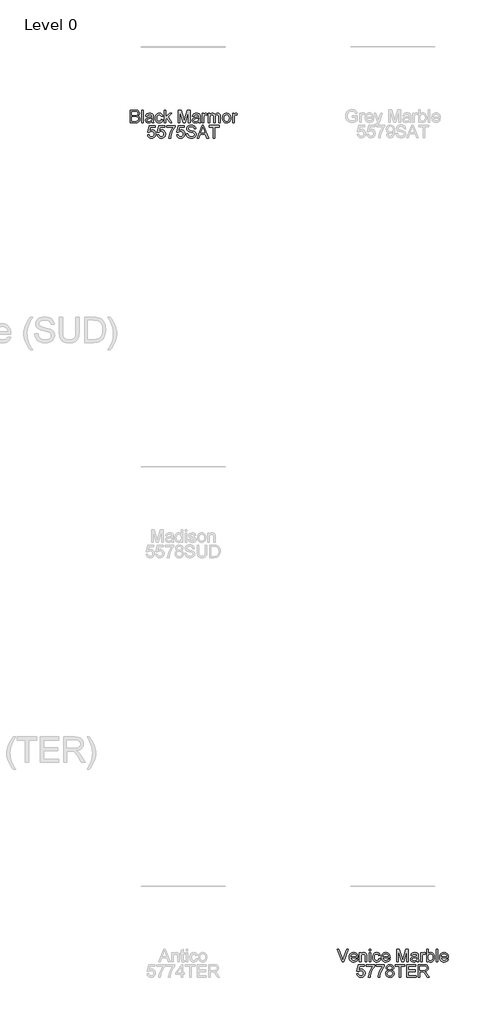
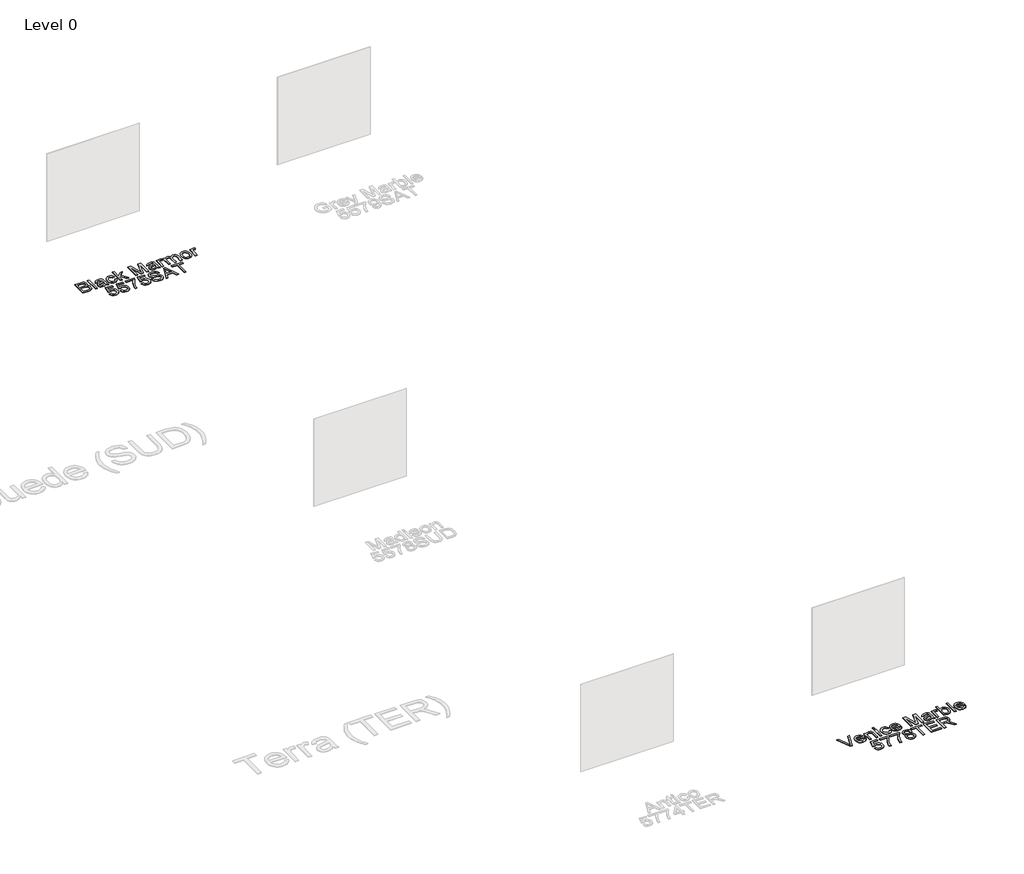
# One storey, part 5 of 9: 2 proxies.
"""IFC4 building model written with IfcOpenShell, lengths in millimetres."""

from ifc_helpers import new_model, si_unit, origin, origin_with_axes, place, context, project, spatial, polyline, outline, extrude, element, save

model = new_model("IFC4")

# Units and contexts
model_context = context("Model", 3, world=origin())
ifc_project = project(units=[si_unit("LENGTHUNIT", "METRE", prefix="MILLI")], contexts=[model_context])

# Site, building, storey
site = spatial("IfcSite", under=ifc_project)
building = spatial("IfcBuilding", under=site)
storey = spatial("IfcBuildingStorey", under=building, Name="Level 0", Elevation=0.0)

# Proxies
placement = place(None, origin())
element("IfcBuildingElementProxy", 1, Name="300mm Arial", ObjectType="300mm Arial", at=placement, inside=storey, context=model_context, shape_type="SweptSolid", body=[
    extrude(outline(polyline([(-5707.931563, -7002.860494), (-5707.931563, -6701.4915635), (-5592.9316513, -6701.4915635), (-5561.3029968, -6703.7080526), (-5536.6089179, -6710.3575196), (-5517.6813892, -6721.6055116), (-5503.3523855, -6737.6175755), (-5494.3300796, -6756.4531336), (-5491.3226443, -6776.1716086), (-5493.851833, -6794.317388), (-5501.4393991, -6811.3779155), (-5514.140525, -6826.3047274), (-5532.0103929, -6838.0493601), (-5510.6640402, -6849.1961846), (-5494.8910996, -6866.1555446), (-5485.1514238, -6887.8054), (-5481.9048652, -6913.0237108), (-5484.1213542, -6934.0389697), (-5490.7708213, -6953.5275184), (-5500.6944381, -6970.1006023), (-5512.7333764, -6982.3694669), (-5527.4762473, -6991.253817), (-5545.5116622, -6997.6733578), (-5593.8145681, -7002.860494), (-5707.931563, -7002.860494)]), holes=[polyline([(-5670.2604467, -6823.9226915), (-5601.4665136, -6823.9226915), (-5561.2937997, -6820.68533), (-5547.2315105, -6815.1027207), (-5537.1239527, -6806.7426024), (-5531.0263086, -6795.7337336), (-5528.9937606, -6782.2048733), (-5530.8883528, -6769.071486), (-5536.5721297, -6757.630356), (-5545.7875736, -6748.7000206), (-5558.2771674, -6743.0990172), (-5606.690438, -6739.1626798), (-5670.2604467, -6739.1626798), (-5670.2604467, -6823.9226915)]), polyline([(-5670.2604467, -6965.1893777), (-5593.0052277, -6965.1893777), (-5565.0461961, -6963.7178497), (-5541.3913838, -6955.5140812), (-5525.7196108, -6938.7754504), (-5521.1118888, -6926.9480443), (-5519.5759815, -6913.3915928), (-5521.3786033, -6897.6462434), (-5526.7864686, -6884.1081859), (-5536.2318388, -6873.5223815), (-5550.1469753, -6866.6337912), (-5569.8562532, -6862.8538037), (-5596.6840477, -6861.5938078), (-5670.2604467, -6861.5938078), (-5670.2604467, -6965.1893777)])]), origin_with_axes(), (0.0, 0.0, 1.0), 10.0),
    extrude(outline(polyline([(-5434.8159698, -7002.860494), (-5434.8159698, -6701.4915635), (-5397.1448535, -6701.4915635), (-5397.1448535, -7002.860494), (-5434.8159698, -7002.860494)])), origin_with_axes(), (0.0, 0.0, 1.0), 10.0),
    extrude(outline(polyline([(-5199.3714929, -6974.6071568), (-5217.3701195, -6990.0398064), (-5235.902175, -7000.1381672), (-5255.3907237, -7005.7115794), (-5276.2588299, -7007.5693835), (-5307.7403316, -7003.0996173), (-5330.9628826, -6989.6903186), (-5345.2826892, -6969.3280501), (-5350.0559581, -6943.9993748), (-5348.2533363, -6928.3827841), (-5342.845471, -6914.2009331), (-5334.5037468, -6902.0608273), (-5323.8995483, -6892.5694718), (-5297.5224092, -6880.2086368), (-5264.9280644, -6874.5432541), (-5226.4108195, -6868.5835657), (-5199.5922221, -6861.5938078), (-5199.3714929, -6853.2060983), (-5201.965061, -6836.3938912), (-5209.7457652, -6825.3942195), (-5227.1465835, -6817.2272392), (-5251.390007, -6814.5049125), (-5273.8308087, -6816.3167313), (-5289.5025817, -6821.7521878), (-5300.1895537, -6831.8045633), (-5307.6759523, -6847.4671392), (-5345.3470686, -6842.7582497), (-5338.8079661, -6822.156858), (-5329.0498962, -6805.9700502), (-5315.1623509, -6793.590821), (-5296.2348222, -6784.4121652), (-5273.0858477, -6778.7283884), (-5246.5339647, -6776.8337961), (-5221.0673336, -6778.5076592), (-5200.8798091, -6783.5292485), (-5185.6586915, -6791.0800264), (-5175.0912812, -6800.3414556), (-5168.0831292, -6811.7917827), (-5163.5397866, -6825.9092543), (-5161.7003766, -6858.8714811), (-5161.7003766, -6905.7396473), (-5159.7873902, -6971.1858542), (-5152.2825975, -7002.860494), (-5189.9537138, -7002.860494), (-5199.3714929, -6974.6071568)]), holes=[polyline([(-5199.3714929, -6899.2649241), (-5260.1455985, -6910.8164188), (-5292.5560023, -6916.9232599), (-5307.2344939, -6926.8560738), (-5312.3848418, -6941.3506244), (-5309.5797416, -6952.5526311), (-5301.164441, -6961.7312869), (-5287.3228809, -6967.8565221), (-5268.2390024, -6969.8982672), (-5248.0054927, -6967.64499), (-5230.1264277, -6960.8851583), (-5215.6318771, -6950.9247533), (-5205.5519104, -6939.069756), (-5201.0821442, -6926.8560738), (-5199.5922221, -6909.933502), (-5199.3714929, -6899.2649241)])]), origin_with_axes(), (0.0, 0.0, 1.0), 10.0),
    extrude(outline(polyline([(-4968.6359055, -6922.8093718), (-4930.9647892, -6927.5182614), (-4941.4678202, -6961.0231141), (-4961.2046892, -6986.3425924), (-4988.3175923, -7002.2626857), (-5020.9487252, -7007.5693835), (-5042.0766481, -7005.7184772), (-5061.0202716, -7000.1657584), (-5077.7795957, -6990.9112269), (-5092.3546205, -6977.9548829), (-5104.1521362, -6961.5404481), (-5112.5789332, -6941.9116444), (-5117.6350114, -6919.0684718), (-5119.3203707, -6893.0109302), (-5116.4416941, -6859.4876834), (-5107.8056643, -6830.4342028), (-5093.2743255, -6806.9725286), (-5072.709722, -6790.2247008), (-5048.1076135, -6780.1815223), (-5021.46376, -6776.8337961), (-4989.6327704, -6781.4323211), (-4964.1845334, -6795.2278959), (-4945.9283894, -6817.4847566), (-4935.6736787, -6847.4671392), (-4973.3447951, -6852.1760288), (-4980.1782031, -6835.7409006), (-4990.8191898, -6823.9594797), (-5004.679144, -6816.8685543), (-5021.1694544, -6814.5049125), (-5045.5140455, -6819.1586197), (-5064.8370473, -6833.1197414), (-5077.4462026, -6857.1424357), (-5081.6492544, -6891.9808606), (-5077.5381731, -6927.2883351), (-5065.2049293, -6951.3938029), (-5046.2314153, -6965.2721511), (-5022.199524, -6969.8982672), (-5002.6925812, -6967.0103936), (-4986.6989115, -6958.3467726), (-4975.0646434, -6943.6866751), (-4968.6359055, -6922.8093718)])), origin_with_axes(), (0.0, 0.0, 1.0), 10.0),
    extrude(outline(polyline([(-4898.0025624, -7002.860494), (-4898.0025624, -6701.4915635), (-4860.3314461, -6701.4915635), (-4860.3314461, -6863.4332178), (-4775.86574, -6781.5426857), (-4723.7736495, -6781.5426857), (-4809.3430016, -6864.4632874), (-4719.06476, -7002.860494), (-4763.0634466, -7002.860494), (-4836.3455401, -6890.6564855), (-4860.3314461, -6913.9802039), (-4860.3314461, -7002.860494), (-4898.0025624, -7002.860494)])), origin_with_axes(), (0.0, 0.0, 1.0), 10.0),
    extrude(outline(polyline([(-4563.6714052, -7002.860494), (-4563.6714052, -6701.4915635), (-4499.0713269, -6701.4915635), (-4437.2671517, -6913.9066275), (-4424.7591638, -6958.2731962), (-4411.2946828, -6910.2278076), (-4350.66773, -6701.4915635), (-4285.8469225, -6701.4915635), (-4285.8469225, -7002.860494), (-4323.5180388, -7002.860494), (-4323.5180388, -6739.1626798), (-4399.2281534, -7002.860494), (-4450.2165979, -7002.860494), (-4526.0002889, -6739.1626798), (-4526.0002889, -7002.860494), (-4563.6714052, -7002.860494)])), origin_with_axes(), (0.0, 0.0, 1.0), 10.0),
    extrude(outline(polyline([(-4083.3646723, -6974.6071568), (-4101.3632989, -6990.0398064), (-4119.8953544, -7000.1381672), (-4139.3839031, -7005.7115794), (-4160.2520093, -7007.5693835), (-4191.7335111, -7003.0996173), (-4214.956062, -6989.6903186), (-4229.2758687, -6969.3280501), (-4234.0491375, -6943.9993748), (-4232.2465158, -6928.3827841), (-4226.8386504, -6914.2009331), (-4218.4969262, -6902.0608273), (-4207.8927277, -6892.5694718), (-4181.5155886, -6880.2086368), (-4148.9212439, -6874.5432541), (-4110.403999, -6868.5835657), (-4083.5854015, -6861.5938078), (-4083.3646723, -6853.2060983), (-4085.9582404, -6836.3938912), (-4093.7389446, -6825.3942195), (-4111.139763, -6817.2272392), (-4135.3831864, -6814.5049125), (-4157.8239881, -6816.3167313), (-4173.4957611, -6821.7521878), (-4184.1827331, -6831.8045633), (-4191.6691317, -6847.4671392), (-4229.340248, -6842.7582497), (-4222.8011455, -6822.156858), (-4213.0430756, -6805.9700502), (-4199.1555303, -6793.590821), (-4180.2280017, -6784.4121652), (-4157.0790271, -6778.7283884), (-4130.5271441, -6776.8337961), (-4105.060513, -6778.5076592), (-4084.8729885, -6783.5292485), (-4069.651871, -6791.0800264), (-4059.0844606, -6800.3414556), (-4052.0763086, -6811.7917827), (-4047.532966, -6825.9092543), (-4045.693556, -6858.8714811), (-4045.693556, -6905.7396473), (-4043.7805696, -6971.1858542), (-4036.2757769, -7002.860494), (-4073.9468932, -7002.860494), (-4083.3646723, -6974.6071568)]), holes=[polyline([(-4083.3646723, -6899.2649241), (-4144.1387779, -6910.8164188), (-4176.5491817, -6916.9232599), (-4191.2276733, -6926.8560738), (-4196.3780212, -6941.3506244), (-4193.572921, -6952.5526311), (-4185.1576204, -6961.7312869), (-4171.3160603, -6967.8565221), (-4152.2321818, -6969.8982672), (-4131.9986721, -6967.64499), (-4114.1196071, -6960.8851583), (-4099.6250565, -6950.9247533), (-4089.5450898, -6939.069756), (-4085.0753236, -6926.8560738), (-4083.5854015, -6909.933502), (-4083.3646723, -6899.2649241)])]), origin_with_axes(), (0.0, 0.0, 1.0), 10.0),
    extrude(outline(polyline([(-3993.8957711, -7002.860494), (-3993.8957711, -6781.5426857), (-3960.9335443, -6781.5426857), (-3960.9335443, -6814.2841833), (-3948.7566503, -6795.3014723), (-3937.5362494, -6784.1178596), (-3926.2790604, -6778.654812), (-3913.9918017, -6776.8337961), (-3895.22982, -6779.7400639), (-3876.1735326, -6788.4588672), (-3888.7550969, -6822.2304343), (-3901.9988487, -6816.4362929), (-3915.2426005, -6814.5049125), (-3926.4905925, -6816.3627165), (-3936.542968, -6821.9361288), (-3944.6639631, -6830.8020848), (-3950.1178137, -6842.5375205), (-3954.6979445, -6863.5803706), (-3956.2246548, -6886.5362071), (-3956.2246548, -7002.860494), (-3993.8957711, -7002.860494)])), origin_with_axes(), (0.0, 0.0, 1.0), 10.0),
    extrude(outline(polyline([(-3852.6290849, -7002.860494), (-3852.6290849, -6781.5426857), (-3814.9579686, -6781.5426857), (-3814.9579686, -6817.9630032), (-3803.6272032, -6801.2335695), (-3789.0590762, -6788.1277734), (-3771.7502283, -6779.6572905), (-3752.1973003, -6776.8337961), (-3731.2464206, -6779.7124728), (-3714.4526076, -6788.3485026), (-3701.9078315, -6802.1716686), (-3693.704063, -6820.6117536), (-3679.9728676, -6801.4588972), (-3664.3102916, -6787.7782855), (-3646.7163352, -6779.5699185), (-3627.1909983, -6776.8337961), (-3598.8732817, -6781.3863358), (-3577.9315991, -6795.0439549), (-3564.99135, -6818.1745354), (-3560.6779336, -6851.1459592), (-3560.6779336, -7002.860494), (-3598.3490499, -7002.860494), (-3598.3490499, -6867.332767), (-3601.8439288, -6835.8788564), (-3606.7551535, -6827.2060383), (-3614.4990695, -6820.3910244), (-3624.4594745, -6815.9764404), (-3636.0201662, -6814.5049125), (-3656.4284199, -6818.2757029), (-3673.0658831, -6829.5880743), (-3684.1299341, -6849.2145787), (-3687.8179511, -6877.9277684), (-3687.8179511, -7002.860494), (-3725.4890674, -7002.860494), (-3725.4890674, -6863.1389122), (-3727.6687682, -6841.8385447), (-3734.2078707, -6826.6450183), (-3745.7133801, -6817.5399389), (-3762.7923017, -6814.5049125), (-3777.3052464, -6816.5282634), (-3790.677757, -6822.5983163), (-3801.7142168, -6832.5679184), (-3809.2190095, -6846.2899168), (-3813.5232289, -6865.3278101), (-3814.9579686, -6891.2450966), (-3814.9579686, -7002.860494), (-3852.6290849, -7002.860494)])), origin_with_axes(), (0.0, 0.0, 1.0), 10.0),
    extrude(outline(polyline([(-3513.5890382, -6892.2015898), (-3511.5518916, -6863.5389839), (-3505.440452, -6838.8403064), (-3495.2547193, -6818.1055575), (-3480.9946934, -6801.334737), (-3466.6380986, -6790.6155754), (-3450.7915816, -6782.9590314), (-3433.4551426, -6778.3651049), (-3414.6287815, -6776.8337961), (-3393.845748, -6778.698498), (-3375.0538759, -6784.2926036), (-3358.253165, -6793.6161129), (-3343.4436154, -6806.669026), (-3331.3563926, -6823.0098843), (-3322.722662, -6842.1972296), (-3317.5424237, -6864.2310619), (-3315.8156776, -6889.1113811), (-3318.8690981, -6927.1687735), (-3328.0293598, -6956.1394806), (-3343.0297482, -6977.8353213), (-3363.6035488, -6994.0681143), (-3388.0401103, -7004.1940662), (-3414.6287815, -7007.5693835), (-3435.7153176, -7005.7115794), (-3454.6819337, -7000.1381672), (-3471.5286298, -6990.8491468), (-3486.255406, -6977.8445183), (-3498.2138701, -6961.3450108), (-3506.7556301, -6941.5713536), (-3511.8806862, -6918.5235466), (-3513.5890382, -6892.2015898)]), holes=[polyline([(-3475.9179219, -6892.1280134), (-3471.5585202, -6926.2214773), (-3458.4803153, -6950.5108861), (-3438.7986286, -6965.0514219), (-3414.6287815, -6969.8982672), (-3390.569299, -6965.0238308), (-3370.9244005, -6950.4005215), (-3357.8461955, -6925.789216), (-3353.4867939, -6890.950791), (-3357.8737867, -6857.8506085), (-3371.0347651, -6833.8922936), (-3390.7072548, -6819.3517577), (-3414.6287815, -6814.5049125), (-3438.7986286, -6819.3333636), (-3458.4803153, -6833.8187172), (-3471.5585202, -6858.0529436), (-3475.9179219, -6892.1280134)])]), origin_with_axes(), (0.0, 0.0, 1.0), 10.0),
    extrude(outline(polyline([(-3273.4356717, -7002.860494), (-3273.4356717, -6781.5426857), (-3240.473445, -6781.5426857), (-3240.473445, -6814.2841833), (-3228.2965509, -6795.3014723), (-3217.0761501, -6784.1178596), (-3205.818961, -6778.654812), (-3193.5317024, -6776.8337961), (-3174.7697206, -6779.7400639), (-3155.7134333, -6788.4588672), (-3168.2949975, -6822.2304343), (-3181.5387493, -6816.4362929), (-3194.7825012, -6814.5049125), (-3206.0304932, -6816.3627165), (-3216.0828687, -6821.9361288), (-3224.2038637, -6830.8020848), (-3229.6577143, -6842.5375205), (-3234.2378452, -6863.5803706), (-3235.7645554, -6886.5362071), (-3235.7645554, -7002.860494), (-3273.4356717, -7002.860494)])), origin_with_axes(), (0.0, 0.0, 1.0), 10.0),
    extrude(outline(polyline([(-5298.2581732, -7288.7338254), (-5260.5870569, -7284.0249358), (-5253.6708754, -7306.6404815), (-5241.6043459, -7322.8364863), (-5224.4426509, -7332.5761621), (-5202.2409725, -7335.8227207), (-5175.238434, -7331.3069693), (-5155.0049243, -7317.7597148), (-5142.3681777, -7296.7444558), (-5138.1559289, -7269.8246908), (-5142.1014633, -7244.4776213), (-5153.9380665, -7225.0902402), (-5173.757709, -7212.7845875), (-5201.6523613, -7208.6827032), (-5219.9268994, -7210.3197781), (-5234.7249526, -7215.2310027), (-5255.8781674, -7232.2271509), (-5293.5492837, -7227.5182614), (-5260.5870569, -7072.1249066), (-5114.6114812, -7072.1249066), (-5114.6114812, -7109.7960229), (-5230.1264277, -7109.7960229), (-5246.3132355, -7192.790201), (-5219.4026675, -7176.4562404), (-5191.2045126, -7171.0115869), (-5172.8563981, -7172.6992456), (-5155.9982057, -7177.7622215), (-5140.6299353, -7186.2005148), (-5126.751587, -7198.0141254), (-5115.2598732, -7212.4810848), (-5107.0515062, -7228.8794248), (-5102.126486, -7247.2091452), (-5100.4848126, -7267.470246), (-5106.3893186, -7305.1413624), (-5113.7699511, -7321.9351754), (-5124.1028367, -7337.3678251), (-5139.7562156, -7353.1729553), (-5158.0215566, -7364.4623341), (-5178.8988599, -7371.2359613), (-5202.3881253, -7373.4938371), (-5239.3878569, -7367.6904986), (-5255.0665277, -7360.4363255), (-5268.8644018, -7350.2804832), (-5280.3446193, -7337.7288093), (-5289.0703204, -7323.2871418), (-5298.2581732, -7288.7338254)])), origin_with_axes(), (0.0, 0.0, 1.0), 10.0),
    extrude(outline(polyline([(-5067.5225858, -7288.7338254), (-5029.8514695, -7284.0249358), (-5022.935288, -7306.6404815), (-5010.8687586, -7322.8364863), (-4993.7070635, -7332.5761621), (-4971.5053851, -7335.8227207), (-4944.5028466, -7331.3069693), (-4924.2693369, -7317.7597148), (-4911.6325904, -7296.7444558), (-4907.4203415, -7269.8246908), (-4911.3658759, -7244.4776213), (-4923.2024791, -7225.0902402), (-4943.0221216, -7212.7845875), (-4970.9167739, -7208.6827032), (-4989.191312, -7210.3197781), (-5003.9893653, -7215.2310027), (-5025.14258, -7232.2271509), (-5062.8136963, -7227.5182614), (-5029.8514695, -7072.1249066), (-4883.8758938, -7072.1249066), (-4883.8758938, -7109.7960229), (-4999.3908403, -7109.7960229), (-5015.5776481, -7192.790201), (-4988.6670802, -7176.4562404), (-4960.4689252, -7171.0115869), (-4942.1208107, -7172.6992456), (-4925.2626183, -7177.7622215), (-4909.8943479, -7186.2005148), (-4896.0159997, -7198.0141254), (-4884.5242858, -7212.4810848), (-4876.3159188, -7228.8794248), (-4871.3908986, -7247.2091452), (-4869.7492252, -7267.470246), (-4875.6537312, -7305.1413624), (-4883.0343638, -7321.9351754), (-4893.3672493, -7337.3678251), (-4909.0206282, -7353.1729553), (-4927.2859693, -7364.4623341), (-4948.1632725, -7371.2359613), (-4971.6525379, -7373.4938371), (-5008.6522695, -7367.6904986), (-5024.3309403, -7360.4363255), (-5038.1288144, -7350.2804832), (-5049.6090319, -7337.7288093), (-5058.334733, -7323.2871418), (-5067.5225858, -7288.7338254)])), origin_with_axes(), (0.0, 0.0, 1.0), 10.0),
    extrude(outline(polyline([(-4836.7869984, -7109.7960229), (-4836.7869984, -7072.1249066), (-4639.0136378, -7072.1249066), (-4639.0136378, -7102.5855358), (-4667.2025957, -7138.2608923), (-4695.1156421, -7183.6299393), (-4719.7361446, -7234.5540045), (-4738.0474709, -7286.8944154), (-4747.0237916, -7326.0554538), (-4752.0269868, -7368.7849475), (-4789.6981031, -7368.7849475), (-4785.62381, -7329.9550029), (-4774.7253059, -7283.8042066), (-4757.2968963, -7234.8850983), (-4733.632887, -7187.7502177), (-4706.0049492, -7145.1402856), (-4676.6847541, -7109.7960229), (-4836.7869984, -7109.7960229)])), origin_with_axes(), (0.0, 0.0, 1.0), 10.0),
    extrude(outline(polyline([(-4606.0514111, -7288.7338254), (-4568.3802948, -7284.0249358), (-4561.4641133, -7306.6404815), (-4549.3975838, -7322.8364863), (-4532.2358887, -7332.5761621), (-4510.0342103, -7335.8227207), (-4483.0316719, -7331.3069693), (-4462.7981621, -7317.7597148), (-4450.1614156, -7296.7444558), (-4445.9491668, -7269.8246908), (-4449.8947012, -7244.4776213), (-4461.7313044, -7225.0902402), (-4481.5509469, -7212.7845875), (-4509.4455991, -7208.6827032), (-4527.7201372, -7210.3197781), (-4542.5181905, -7215.2310027), (-4563.6714052, -7232.2271509), (-4601.3425215, -7227.5182614), (-4568.3802948, -7072.1249066), (-4422.4047191, -7072.1249066), (-4422.4047191, -7109.7960229), (-4537.9196656, -7109.7960229), (-4554.1064734, -7192.790201), (-4527.1959054, -7176.4562404), (-4498.9977505, -7171.0115869), (-4480.649636, -7172.6992456), (-4463.7914435, -7177.7622215), (-4448.4231732, -7186.2005148), (-4434.5448249, -7198.0141254), (-4423.0531111, -7212.4810848), (-4414.8447441, -7228.8794248), (-4409.9197239, -7247.2091452), (-4408.2780505, -7267.470246), (-4414.1825565, -7305.1413624), (-4421.563189, -7321.9351754), (-4431.8960746, -7337.3678251), (-4447.5494534, -7353.1729553), (-4465.8147945, -7364.4623341), (-4486.6920977, -7371.2359613), (-4510.1813631, -7373.4938371), (-4547.1810948, -7367.6904986), (-4562.8597656, -7360.4363255), (-4576.6576397, -7350.2804832), (-4588.1378572, -7337.7288093), (-4596.8635582, -7323.2871418), (-4606.0514111, -7288.7338254)])), origin_with_axes(), (0.0, 0.0, 1.0), 10.0),
    extrude(outline(polyline([(-4375.3158237, -7265.1893777), (-4337.6447074, -7265.1893777), (-4333.3220939, -7286.0942721), (-4325.5046015, -7302.8972822), (-4313.3093134, -7316.2330045), (-4295.8533127, -7326.7360355), (-4274.516157, -7333.5510494), (-4250.6774037, -7335.8227207), (-4229.6897359, -7334.1028724), (-4211.3140302, -7328.9433274), (-4196.4240065, -7320.7763471), (-4185.8933844, -7310.0341929), (-4179.6301934, -7297.700949), (-4177.5424631, -7284.7606998), (-4179.1059616, -7272.1515444), (-4183.796457, -7261.2530403), (-4193.3246007, -7251.9548229), (-4209.4010439, -7244.1465276), (-4264.2522494, -7229.7623415), (-4300.2586996, -7220.2433949), (-4323.2973096, -7211.1843008), (-4342.0500943, -7198.510766), (-4355.3398314, -7183.1516928), (-4363.2584913, -7165.4381747), (-4365.8980446, -7145.7013056), (-4362.6330919, -7123.637583), (-4352.8382338, -7103.0637824), (-4336.7709877, -7085.6261758), (-4314.6888709, -7072.9710352), (-4288.1829731, -7065.2731044), (-4258.844384, -7062.7071275), (-4227.0593796, -7065.3926661), (-4199.2475008, -7073.4492818), (-4176.4020289, -7086.7114277), (-4159.5162453, -7105.013557), (-4148.8292734, -7127.2152354), (-4144.5802363, -7152.1760288), (-4182.2513526, -7152.1760288), (-4189.1675341, -7129.6984389), (-4203.5885083, -7113.4748429), (-4226.1212806, -7103.6523936), (-4257.372856, -7100.3782438), (-4289.3601955, -7103.6156054), (-4311.3043565, -7113.3276901), (-4323.9962854, -7127.6199056), (-4328.2269283, -7144.5976597), (-4325.2286901, -7159.0738162), (-4316.2339753, -7170.7172813), (-4294.9703959, -7181.1283418), (-4254.7241057, -7191.7601314), (-4213.1902284, -7201.8584922), (-4188.0638882, -7210.669266), (-4166.5887767, -7224.3360821), (-4151.6067824, -7241.2034716), (-4142.8052057, -7261.0874934), (-4139.8713468, -7283.8042066), (-4143.2466641, -7307.0267576), (-4153.372616, -7328.869751), (-4169.8353353, -7347.668521), (-4192.2209547, -7361.7584014), (-4219.1407197, -7370.5599781), (-4249.2058757, -7373.4938371), (-4286.1136369, -7370.3300519), (-4316.4914927, -7360.8386964), (-4340.6889309, -7344.9829824), (-4359.0554395, -7322.7261217), (-4370.8460575, -7295.6132187), (-4375.3158237, -7265.1893777)])), origin_with_axes(), (0.0, 0.0, 1.0), 10.0),
    extrude(outline(polyline([(-4118.3870383, -7368.7849475), (-3998.0896258, -7067.4160171), (-3966.0103159, -7067.4160171), (-3845.7864798, -7368.7849475), (-3885.5913117, -7368.7849475), (-3920.0250665, -7274.6071568), (-4044.222028, -7274.6071568), (-4078.6557828, -7368.7849475), (-4118.3870383, -7368.7849475)]), holes=[polyline([(-4030.389665, -7236.9360404), (-3933.7838531, -7236.9360404), (-3961.0071207, -7162.8446066), (-3982.1235473, -7105.0871334), (-4000.885529, -7156.3698835), (-4030.389665, -7236.9360404)])]), origin_with_axes(), (0.0, 0.0, 1.0), 10.0),
    extrude(outline(polyline([(-3730.197957, -7368.7849475), (-3730.197957, -7105.0871334), (-3829.0846373, -7105.0871334), (-3829.0846373, -7067.4160171), (-3593.6401603, -7067.4160171), (-3593.6401603, -7105.0871334), (-3692.5268406, -7105.0871334), (-3692.5268406, -7368.7849475), (-3730.197957, -7368.7849475)])), origin_with_axes(), (0.0, 0.0, 1.0), 10.0),
])
element("IfcBuildingElementProxy", 2, Name="300mm Arial", ObjectType="300mm Arial", at=placement, inside=storey, context=model_context, shape_type="SweptSolid", body=[
    extrude(outline(polyline([(-661.3577024, -27014.0303751), (-781.2136565, -26712.6614447), (-740.8937898, -26712.6614447), (-660.6219384, -26929.7853982), (-644.3615543, -26978.7137036), (-628.3218993, -26929.7853982), (-547.8293187, -26712.6614447), (-507.5830285, -26712.6614447), (-622.5093637, -27014.0303751), (-661.3577024, -27014.0303751)])), origin_with_axes(), (0.0, 0.0, 1.0), 10.0),
    extrude(outline(polyline([(-322.2440793, -26948.1059216), (-285.308727, -26952.8148111), (-298.6168581, -26980.6450841), (-319.8528463, -27001.4488109), (-348.5384449, -27014.4166512), (-384.1954073, -27018.7392647), (-407.5697095, -27016.8745628), (-428.396429, -27011.2804572), (-446.6755656, -27001.9569479), (-462.4071194, -26988.9040349), (-475.0576616, -26972.4850016), (-484.0937631, -26953.0631315), (-489.515424, -26930.6384246), (-491.3226443, -26905.2108809), (-489.4970299, -26878.9211139), (-484.0201867, -26855.7491467), (-474.8921147, -26835.6949794), (-462.1128138, -26818.7586121), (-446.4226468, -26805.3033281), (-428.5619759, -26795.692411), (-408.5308012, -26789.9258607), (-386.3291228, -26788.0036773), (-364.8425151, -26789.9212622), (-345.4114479, -26795.6740169), (-328.0359214, -26805.2619414), (-312.7159356, -26818.6850357), (-300.210247, -26835.5846148), (-291.2776123, -26855.6019939), (-285.9180315, -26878.7371729), (-284.1315046, -26904.9901518), (-284.3522338, -26915.1436948), (-453.651528, -26915.1436948), (-447.1308196, -26943.3418497), (-431.9832784, -26964.0720002), (-410.1218909, -26976.8191113), (-383.4596433, -26981.0681484), (-363.4100745, -26979.0999797), (-346.524291, -26973.1954737), (-332.8022925, -26962.9867483), (-322.2440793, -26948.1059216)]), holes=[polyline([(-453.651528, -26877.4725785), (-321.8026209, -26877.4725785), (-326.8977865, -26857.5701626), (-336.8857827, -26843.3331294), (-358.8483378, -26830.0893775), (-386.4762756, -26825.6747936), (-411.8693304, -26829.1972637), (-432.8661952, -26839.764674), (-447.4619134, -26856.2365903), (-453.651528, -26877.4725785)])]), origin_with_axes(), (0.0, 0.0, 1.0), 10.0),
    extrude(outline(polyline([(-246.4603883, -27014.0303751), (-246.4603883, -26792.7125668), (-208.789272, -26792.7125668), (-208.789272, -26823.6146544), (-195.70187, -26808.0348519), (-179.9841117, -26796.9064216), (-161.6359972, -26790.2293634), (-140.6575265, -26788.0036773), (-122.0886828, -26789.797102), (-105.0833375, -26795.1773762), (-90.9014866, -26803.4731152), (-80.8031258, -26814.0129343), (-69.5091486, -26841.7144486), (-67.5225858, -26878.1347661), (-67.5225858, -27014.0303751), (-105.1937021, -27014.0303751), (-105.1937021, -26883.2115376), (-109.5347097, -26849.8814289), (-115.5403832, -26839.9578121), (-124.8753889, -26832.2598813), (-136.8407508, -26827.3210655), (-150.7374931, -26825.6747936), (-172.8012158, -26829.3720076), (-191.6091828, -26840.4636498), (-199.1254718, -26849.5181454), (-204.4942497, -26861.892776), (-208.789272, -26896.6024423), (-208.789272, -27014.0303751), (-246.4603883, -27014.0303751)])), origin_with_axes(), (0.0, 0.0, 1.0), 10.0),
    extrude(outline(polyline([(-15.7248009, -26750.332561), (-15.7248009, -26712.6614447), (21.9463154, -26712.6614447), (21.9463154, -26750.332561), (-15.7248009, -26750.332561)])), origin_with_axes(), (0.0, 0.0, 1.0), 10.0),
    extrude(outline(polyline([(-15.7248009, -27014.0303751), (-15.7248009, -26792.7125668), (21.9463154, -26792.7125668), (21.9463154, -27014.0303751), (-15.7248009, -27014.0303751)])), origin_with_axes(), (0.0, 0.0, 1.0), 10.0),
    extrude(outline(polyline([(219.719676, -26933.979253), (257.3907923, -26938.6881425), (246.8877614, -26972.1929952), (227.1508923, -26997.5124735), (200.0379893, -27013.4325669), (167.4068563, -27018.7392647), (146.2789335, -27016.8883584), (127.33531, -27011.3356395), (110.5759858, -27002.0811081), (96.000961, -26989.124764), (84.2034453, -26972.7103293), (75.7766484, -26953.0815256), (70.7205702, -26930.2383529), (69.0352108, -26904.1808114), (71.9138874, -26870.6575646), (80.5499172, -26841.604084), (95.081256, -26818.1424097), (115.6458596, -26801.3945819), (140.247968, -26791.3514034), (166.8918215, -26788.0036773), (198.7228111, -26792.6022022), (224.1710482, -26806.397777), (242.4271922, -26828.6546378), (252.6819028, -26858.6370204), (215.0107865, -26863.3459099), (208.1773784, -26846.9107818), (197.5363917, -26835.1293609), (183.6764375, -26828.0384354), (167.1861271, -26825.6747936), (142.8415361, -26830.3285008), (123.5185343, -26844.2896225), (110.9093789, -26868.3123168), (106.7063271, -26903.1507418), (110.8174084, -26938.4582163), (123.1506523, -26962.563684), (142.1241662, -26976.4420323), (166.1560575, -26981.0681484), (185.6630003, -26978.1802747), (201.6566701, -26969.5166537), (213.2909381, -26954.8565562), (219.719676, -26933.979253)])), origin_with_axes(), (0.0, 0.0, 1.0), 10.0),
    extrude(outline(polyline([(445.3049155, -26948.1059216), (482.2402678, -26952.8148111), (468.9321366, -26980.6450841), (447.6961484, -27001.4488109), (419.0105499, -27014.4166512), (383.3535875, -27018.7392647), (359.9792852, -27016.8745628), (339.1525657, -27011.2804572), (320.8734291, -27001.9569479), (305.1418753, -26988.9040349), (292.4913332, -26972.4850016), (283.4552317, -26953.0631315), (278.0335708, -26930.6384246), (276.2263505, -26905.2108809), (278.0519649, -26878.9211139), (283.5288081, -26855.7491467), (292.6568801, -26835.6949794), (305.4361809, -26818.7586121), (321.126348, -26805.3033281), (338.9870189, -26795.692411), (359.0181935, -26789.9258607), (381.2198719, -26788.0036773), (402.7064797, -26789.9212622), (422.1375468, -26795.6740169), (439.5130733, -26805.2619414), (454.8330591, -26818.6850357), (467.3387477, -26835.5846148), (476.2713824, -26855.6019939), (481.6309632, -26878.7371729), (483.4174902, -26904.9901518), (483.196761, -26915.1436948), (313.8974668, -26915.1436948), (320.4181751, -26943.3418497), (335.5657163, -26964.0720002), (357.4271039, -26976.8191113), (384.0893515, -26981.0681484), (404.1389202, -26979.0999797), (421.0247038, -26973.1954737), (434.7467022, -26962.9867483), (445.3049155, -26948.1059216)]), holes=[polyline([(313.8974668, -26877.4725785), (445.7463739, -26877.4725785), (440.6512082, -26857.5701626), (430.663212, -26843.3331294), (408.7006569, -26830.0893775), (381.0727191, -26825.6747936), (355.6796644, -26829.1972637), (334.6827995, -26839.764674), (320.0870813, -26856.2365903), (313.8974668, -26877.4725785)])]), origin_with_axes(), (0.0, 0.0, 1.0), 10.0),
    extrude(outline(polyline([(643.5197345, -27014.0303751), (643.5197345, -26712.6614447), (708.1198128, -26712.6614447), (769.923988, -26925.0765087), (782.4319758, -26969.4430773), (795.8964569, -26921.3976887), (856.5234097, -26712.6614447), (921.3442172, -26712.6614447), (921.3442172, -27014.0303751), (883.6731009, -27014.0303751), (883.6731009, -26750.332561), (807.9629863, -27014.0303751), (756.9745418, -27014.0303751), (681.1908508, -26750.332561), (681.1908508, -27014.0303751), (643.5197345, -27014.0303751)])), origin_with_axes(), (0.0, 0.0, 1.0), 10.0),
    extrude(outline(polyline([(1123.8264674, -26985.7770379), (1105.8278407, -27001.2096876), (1087.2957852, -27011.3080484), (1067.8072365, -27016.8814606), (1046.9391304, -27018.7392647), (1015.4576286, -27014.2694984), (992.2350777, -27000.8601997), (977.915271, -26980.4979313), (973.1420021, -26955.1692559), (974.9446239, -26939.5526652), (980.3524892, -26925.3708143), (988.6942135, -26913.2307084), (999.298412, -26903.739353), (1025.675551, -26891.3785179), (1058.2698958, -26885.7131352), (1096.7871407, -26879.7534469), (1123.6057382, -26872.763689), (1123.8264674, -26864.3759795), (1121.2328993, -26847.5637723), (1113.4521951, -26836.5641006), (1096.0513767, -26828.3971204), (1071.8079532, -26825.6747936), (1049.3671515, -26827.4866124), (1033.6953785, -26832.9220689), (1023.0084066, -26842.9744444), (1015.522008, -26858.6370204), (977.8508917, -26853.9281308), (984.3899941, -26833.3267391), (994.1480641, -26817.1399313), (1008.0356094, -26804.7607022), (1026.963138, -26795.5820464), (1050.1121126, -26789.8982696), (1076.6639956, -26788.0036773), (1102.1306267, -26789.6775404), (1122.3181512, -26794.6991296), (1137.5392687, -26802.2499075), (1148.106679, -26811.5113368), (1155.1148311, -26822.9616639), (1159.6581737, -26837.0791354), (1161.4975837, -26870.0413622), (1161.4975837, -26916.9095284), (1163.41057, -26982.3557353), (1170.9153627, -27014.0303751), (1133.2442464, -27014.0303751), (1123.8264674, -26985.7770379)]), holes=[polyline([(1123.8264674, -26910.4348053), (1063.0523618, -26921.9862999), (1030.641958, -26928.093141), (1015.9634664, -26938.0259549), (1010.8131184, -26952.5205055), (1013.6182187, -26963.7225123), (1022.0335193, -26972.9011681), (1035.8750794, -26979.0264033), (1054.9589579, -26981.0681484), (1075.1924676, -26978.8148711), (1093.0715326, -26972.0550395), (1107.5660832, -26962.0946345), (1117.6460498, -26950.2396372), (1122.1158161, -26938.0259549), (1123.6057382, -26921.1033831), (1123.8264674, -26910.4348053)])]), origin_with_axes(), (0.0, 0.0, 1.0), 10.0),
    extrude(outline(polyline([(1213.2953686, -27014.0303751), (1213.2953686, -26792.7125668), (1246.2575954, -26792.7125668), (1246.2575954, -26825.4540644), (1258.4344894, -26806.4713534), (1269.6548902, -26795.2877408), (1280.9120793, -26789.8246932), (1293.1993379, -26788.0036773), (1311.9613197, -26790.909945), (1331.017607, -26799.6287483), (1318.4360428, -26833.4003155), (1305.192291, -26827.6061741), (1291.9485392, -26825.6747936), (1280.7005472, -26827.5325977), (1270.6481716, -26833.1060099), (1262.5271766, -26841.971966), (1257.073326, -26853.7074016), (1252.4931952, -26874.7502517), (1250.9664849, -26897.7060882), (1250.9664849, -27014.0303751), (1213.2953686, -27014.0303751)])), origin_with_axes(), (0.0, 0.0, 1.0), 10.0),
    extrude(outline(polyline([(1392.233171, -27014.0303751), (1354.5620547, -27014.0303751), (1354.5620547, -26712.6614447), (1392.233171, -26712.6614447), (1392.233171, -26824.4239948), (1404.6215972, -26808.4901059), (1418.6103101, -26797.1087567), (1434.1993096, -26790.2799471), (1451.3885959, -26788.0036773), (1470.7943711, -26790.0546194), (1489.1332886, -26796.2074458), (1505.3568846, -26806.0758803), (1518.4166954, -26819.2736469), (1528.6530119, -26835.6719868), (1536.406125, -26855.1421414), (1541.2897584, -26876.8747703), (1542.9176363, -26900.060533), (1541.2322769, -26926.8147511), (1536.1761987, -26950.3500018), (1527.7494018, -26970.6662849), (1515.951886, -26987.7636007), (1501.7907285, -27001.3154537), (1486.2730061, -27010.9953487), (1469.3987188, -27016.8032857), (1451.1678667, -27018.7392647), (1433.4129619, -27016.2422656), (1417.672211, -27008.7512685), (1403.9456141, -26996.2662733), (1392.233171, -26978.78728), (1392.233171, -27014.0303751)]), holes=[polyline([(1392.233171, -26901.8263666), (1394.808345, -26933.243489), (1402.5338669, -26954.5070683), (1411.6619389, -26966.1275408), (1422.2707359, -26974.4278783), (1434.360258, -26979.4080808), (1447.9305051, -26981.0681484), (1469.672331, -26976.1753178), (1488.2503718, -26961.4968262), (1500.9974829, -26937.124644), (1505.24652, -26903.1507418), (1501.1722269, -26868.6801988), (1488.9493476, -26844.5839281), (1470.950721, -26830.4020772), (1449.5491859, -26825.6747936), (1427.80736, -26830.5676241), (1409.2293192, -26845.2461157), (1396.4822081, -26869.1768395), (1392.233171, -26901.8263666)])]), origin_with_axes(), (0.0, 0.0, 1.0), 10.0),
    extrude(outline(polyline([(1585.2976421, -27014.0303751), (1585.2976421, -26712.6614447), (1622.9687584, -26712.6614447), (1622.9687584, -27014.0303751), (1585.2976421, -27014.0303751)])), origin_with_axes(), (0.0, 0.0, 1.0), 10.0),
    extrude(outline(polyline([(1834.4273292, -26948.1059216), (1871.3626816, -26952.8148111), (1858.0545504, -26980.6450841), (1836.8185622, -27001.4488109), (1808.1329636, -27014.4166512), (1772.4760013, -27018.7392647), (1749.101699, -27016.8745628), (1728.2749795, -27011.2804572), (1709.9958429, -27001.9569479), (1694.2642891, -26988.9040349), (1681.613747, -26972.4850016), (1672.5776455, -26953.0631315), (1667.1559846, -26930.6384246), (1665.3487643, -26905.2108809), (1667.1743787, -26878.9211139), (1672.6512219, -26855.7491467), (1681.7792939, -26835.6949794), (1694.5585947, -26818.7586121), (1710.2487618, -26805.3033281), (1728.1094326, -26795.692411), (1748.1406073, -26789.9258607), (1770.3422857, -26788.0036773), (1791.8288935, -26789.9212622), (1811.2599606, -26795.6740169), (1828.6354871, -26805.2619414), (1843.9554729, -26818.6850357), (1856.4611615, -26835.5846148), (1865.3937962, -26855.6019939), (1870.753377, -26878.7371729), (1872.5399039, -26904.9901518), (1872.3191747, -26915.1436948), (1703.0198806, -26915.1436948), (1709.5405889, -26943.3418497), (1724.6881301, -26964.0720002), (1746.5495176, -26976.8191113), (1773.2117652, -26981.0681484), (1793.261334, -26979.0999797), (1810.1471176, -26973.1954737), (1823.869116, -26962.9867483), (1834.4273292, -26948.1059216)]), holes=[polyline([(1703.0198806, -26877.4725785), (1834.8687876, -26877.4725785), (1829.773622, -26857.5701626), (1819.7856258, -26843.3331294), (1797.8230707, -26830.0893775), (1770.1951329, -26825.6747936), (1744.8020782, -26829.1972637), (1723.8052133, -26839.764674), (1709.2094951, -26856.2365903), (1703.0198806, -26877.4725785)])]), origin_with_axes(), (0.0, 0.0, 1.0), 10.0),
    extrude(outline(polyline([(-310.030397, -27299.9037065), (-272.3592807, -27295.194817), (-265.4430992, -27317.8103626), (-253.3765698, -27334.0063675), (-236.2148747, -27343.7460433), (-214.0131963, -27346.9926019), (-187.0106579, -27342.4768504), (-166.7771481, -27328.9295959), (-154.1404016, -27307.914337), (-149.9281527, -27280.994572), (-153.8736871, -27255.6475025), (-165.7102903, -27236.2601213), (-185.5299328, -27223.9544686), (-213.4245851, -27219.8525844), (-231.6991232, -27221.4896592), (-246.4971765, -27226.4008839), (-267.6503912, -27243.397032), (-305.3215075, -27238.6881425), (-272.3592807, -27083.2947877), (-126.383705, -27083.2947877), (-126.383705, -27120.9659041), (-241.8986515, -27120.9659041), (-258.0854593, -27203.9600822), (-231.1748914, -27187.6261216), (-202.9767364, -27182.181468), (-184.6286219, -27183.8691267), (-167.7704295, -27188.9321027), (-152.4021592, -27197.3703959), (-138.5238109, -27209.1840065), (-127.0320971, -27223.650966), (-118.82373, -27240.0493059), (-113.8987098, -27258.3790263), (-112.2570364, -27278.6401272), (-118.1615425, -27316.3112435), (-125.542175, -27333.1050566), (-135.8750605, -27348.5377063), (-151.5284394, -27364.3428365), (-169.7937805, -27375.6322152), (-190.6710837, -27382.4058424), (-214.1603491, -27384.6637182), (-251.1600808, -27378.8603797), (-266.8387515, -27371.6062066), (-280.6366256, -27361.4503643), (-292.1168431, -27348.8986905), (-300.8425442, -27334.4570229), (-310.030397, -27299.9037065)])), origin_with_axes(), (0.0, 0.0, 1.0), 10.0),
    extrude(outline(polyline([(-79.2948097, -27120.9659041), (-79.2948097, -27083.2947877), (118.4785509, -27083.2947877), (118.4785509, -27113.7554169), (90.2895931, -27149.4307734), (62.3765467, -27194.7998205), (37.7560441, -27245.7238857), (19.4447178, -27298.0642965), (10.4683972, -27337.2253349), (5.465202, -27379.9548287), (-32.2059143, -27379.9548287), (-28.1316212, -27341.1248841), (-17.2331171, -27294.9740878), (0.1952924, -27246.0549795), (23.8593018, -27198.9200988), (51.4872396, -27156.3101667), (80.8074346, -27120.9659041), (-79.2948097, -27120.9659041)])), origin_with_axes(), (0.0, 0.0, 1.0), 10.0),
    extrude(outline(polyline([(151.4407777, -27120.9659041), (151.4407777, -27083.2947877), (349.2141383, -27083.2947877), (349.2141383, -27113.7554169), (321.0251804, -27149.4307734), (293.1121341, -27194.7998205), (268.4916315, -27245.7238857), (250.1803052, -27298.0642965), (241.2039845, -27337.2253349), (236.2007894, -27379.9548287), (198.5296731, -27379.9548287), (202.6039662, -27341.1248841), (213.5024703, -27294.9740878), (230.9308798, -27246.0549795), (254.5948892, -27198.9200988), (282.222827, -27156.3101667), (311.543022, -27120.9659041), (151.4407777, -27120.9659041)])), origin_with_axes(), (0.0, 0.0, 1.0), 10.0),
    extrude(outline(polyline([(437.0643588, -27213.9664724), (416.8952284, -27204.0336586), (402.7409686, -27190.5691775), (394.3808503, -27173.8489409), (391.5941442, -27154.14886), (393.1116574, -27138.7851882), (397.6641971, -27124.6999063), (405.2517632, -27111.8930143), (415.8743558, -27100.3645123), (429.0215386, -27090.8363686), (444.1828754, -27084.0305517), (480.5480106, -27078.5858982), (517.133875, -27084.1593104), (532.4607586, -27091.1260757), (545.8102765, -27100.8795471), (556.6260072, -27112.6333769), (564.3515291, -27125.6012172), (568.9868422, -27139.7830681), (570.5319466, -27155.1789296), (567.7820287, -27174.244414), (559.532275, -27190.6795421), (545.6907149, -27204.0612497), (526.165378, -27213.9664724), (549.3511407, -27225.9134402), (566.2277273, -27243.5073966), (576.5192261, -27265.9022131), (579.9497257, -27292.251761), (578.2482715, -27311.0413339), (573.1439088, -27328.2674083), (564.6366376, -27343.9299843), (552.726458, -27358.0290617), (538.0387694, -27369.6817239), (521.1989711, -27378.0050541), (502.2070631, -27382.9990522), (481.0630454, -27384.6637182), (459.9190277, -27382.9921544), (440.9271197, -27377.9774629), (424.0873214, -27369.6196439), (409.3996327, -27357.9186971), (397.4894531, -27343.7207514), (388.982182, -27327.8719352), (383.8778193, -27310.3722485), (382.1763651, -27291.2216914), (385.7448204, -27263.851271), (396.4501865, -27241.3368929), (413.7406403, -27224.4511093), (437.0643588, -27213.9664724)]), holes=[polyline([(429.2652605, -27155.252506), (432.6037896, -27171.6968312), (442.6193769, -27184.8302184), (459.0177168, -27193.4386571), (481.5045038, -27196.3081367), (503.4670589, -27193.4570512), (519.6170785, -27184.9037948), (529.5498924, -27172.211866), (532.8608303, -27156.9447632), (529.4395278, -27141.0982462), (519.1756201, -27127.9924502), (502.8048713, -27119.1908734), (481.0630454, -27116.2570145), (459.1832637, -27119.1264941), (442.8401061, -27127.7349328), (432.6589719, -27140.3532852), (429.2652605, -27155.252506)]), polyline([(419.8474814, -27289.8973162), (426.1382635, -27318.2610181), (434.8478697, -27330.4287151), (448.3951242, -27339.4878092), (464.6187202, -27345.1164037), (481.357351, -27346.9926019), (506.998726, -27343.0470675), (526.2389544, -27331.2104643), (538.2686956, -27313.2854141), (542.2786094, -27291.0745386), (538.1399369, -27268.4865841), (525.7239196, -27250.1660608), (506.0422329, -27238.0259549), (480.1065522, -27233.979253), (454.8238621, -27237.9707726), (435.7767718, -27249.9453316), (423.829804, -27267.916367), (419.8474814, -27289.8973162)])]), origin_with_axes(), (0.0, 0.0, 1.0), 10.0),
    extrude(outline(polyline([(702.3808537, -27379.9548287), (702.3808537, -27116.2570145), (603.4941734, -27116.2570145), (603.4941734, -27078.5858982), (838.9386503, -27078.5858982), (838.9386503, -27116.2570145), (740.05197, -27116.2570145), (740.05197, -27379.9548287), (702.3808537, -27379.9548287)])), origin_with_axes(), (0.0, 0.0, 1.0), 10.0),
    extrude(outline(polyline([(881.3186561, -27379.9548287), (881.3186561, -27078.5858982), (1097.9275749, -27078.5858982), (1097.9275749, -27116.2570145), (918.9897724, -27116.2570145), (918.9897724, -27205.7259157), (1088.5097958, -27205.7259157), (1088.5097958, -27243.397032), (918.9897724, -27243.397032), (918.9897724, -27342.2837124), (1102.6364644, -27342.2837124), (1102.6364644, -27379.9548287), (881.3186561, -27379.9548287)])), origin_with_axes(), (0.0, 0.0, 1.0), 10.0),
    extrude(outline(polyline([(1159.1431389, -27379.9548287), (1159.1431389, -27078.5858982), (1289.0054832, -27078.5858982), (1323.9082875, -27080.6184462), (1349.3013422, -27086.7160903), (1367.8609889, -27097.9732794), (1382.263569, -27115.4844623), (1391.5066041, -27137.1986971), (1394.5876158, -27161.0650415), (1389.4832531, -27190.7531185), (1374.1701651, -27215.364424), (1362.5703859, -27225.3938069), (1348.1884992, -27233.4090359), (1311.0784029, -27243.397032), (1332.489135, -27259.5102634), (1363.0233406, -27298.2850257), (1413.2760212, -27379.9548287), (1369.4980637, -27379.9548287), (1330.2818431, -27317.4884659), (1301.9549294, -27276.1385296), (1282.0525135, -27256.6039957), (1264.1366603, -27249.4302968), (1242.2844698, -27248.1059216), (1196.8142552, -27248.1059216), (1196.8142552, -27379.9548287), (1159.1431389, -27379.9548287)]), holes=[polyline([(1196.8142552, -27210.4348053), (1281.1328085, -27210.4348053), (1305.3486408, -27209.101233), (1324.1382137, -27205.1005163), (1338.2832764, -27198.1659407), (1348.5655782, -27188.0307918), (1354.8287692, -27175.7711243), (1356.9164995, -27162.4629931), (1352.9341769, -27144.0872874), (1340.9872091, -27129.2800371), (1320.4318026, -27119.5127702), (1290.624164, -27116.2570145), (1196.8142552, -27116.2570145), (1196.8142552, -27210.4348053)])]), origin_with_axes(), (0.0, 0.0, 1.0), 10.0),
])

save(model, "model.ifc")
